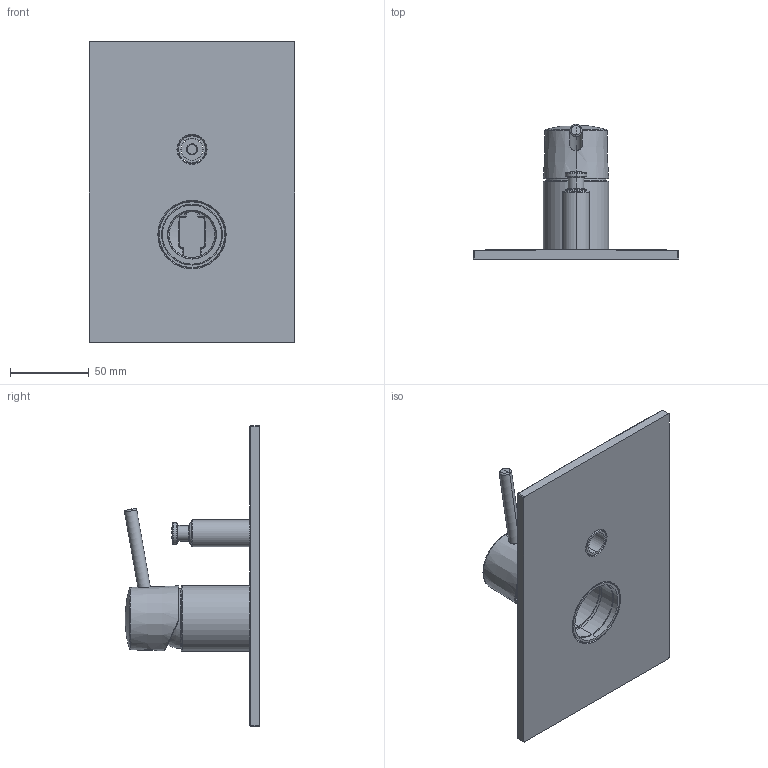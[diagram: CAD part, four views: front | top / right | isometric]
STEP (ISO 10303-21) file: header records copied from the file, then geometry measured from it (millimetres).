
FILE_DESCRIPTION((''),'2;1');
FILE_NAME('14703--00_ASM','2023-02-15T13:54:41',('sosm1'),(''),'CREO PARAMETRIC BY PTC INC, 2022244','CREO PARAMETRIC BY PTC INC, 2022244','');
FILE_SCHEMA(('CONFIG_CONTROL_DESIGN'));
Length unit declared in the file: millimetre
Products named in the file (21): 43956--_AF0; 43968--_AF0_ASM; 43963--_AF0; 44145--_AF0; 44147--; 4413900; 43985--_AF0_ASM; 43980--_AF0; 4396500; 43978--; 43980--_SUB01_AF0_ASM; 43966--_AF0; 43967--_AF0; 14703--00_SUB01_AF0_ASM; 43875--_CAST_AF1; 4900100_AF0; 43958--_AF0; 43876--_2; 43875--_AF0_ASM; 42347--; 14703--00_ASM
Assembly tree (20 placements, depth 4):
  14703--00_ASM
    14703--00_SUB01_AF0_ASM
      43968--_AF0_ASM
        43956--_AF0
      43963--_AF0
      43985--_AF0_ASM
        44145--_AF0
        44147--
        4413900
      43980--_SUB01_AF0_ASM
        43980--_AF0
        4396500
        43978--
      43966--_AF0
      43967--_AF0
    43875--_AF0_ASM
      43875--_CAST_AF1
      4900100_AF0
      43958--_AF0
      43876--_2
    42347--
Bounding box: 130 x 85.34 x 190 mm (x, y, z)
Volume: 170494.7 mm3; surface area: 85071.1 mm2
Topology: 13 solids, 13 shells, 419 faces, 985 edges, 588 vertices
Faces by surface type: cylinder 109, plane 83, bspline 78, torus 76, sphere 39, cone 34
Entity records: 16848 total; most frequent: CARTESIAN_POINT 7179, DIRECTION 2044, ORIENTED_EDGE 1942, EDGE_CURVE 971, AXIS2_PLACEMENT_3D 916, VERTEX_POINT 588, CIRCLE 517, EDGE_LOOP 451
